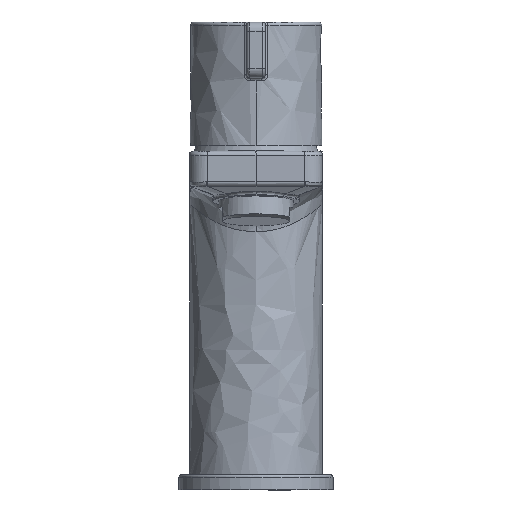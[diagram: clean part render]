
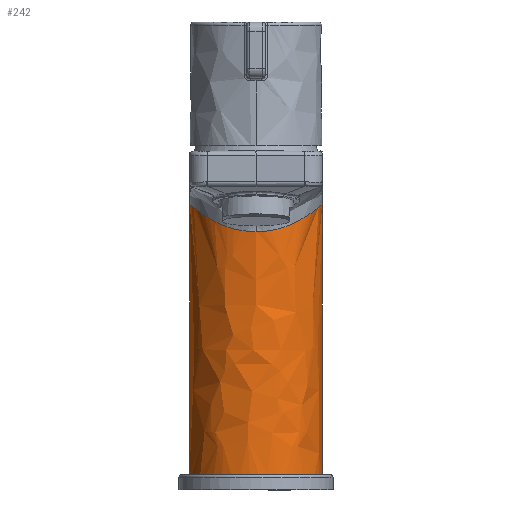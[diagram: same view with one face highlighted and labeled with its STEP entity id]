
A CAD part, front view. The second image highlights one B-rep face of the part: STEP entity #242.
In plain terms, the highlighted free-form (B-spline) face has degree [2, 1] with [9, 2] control points.
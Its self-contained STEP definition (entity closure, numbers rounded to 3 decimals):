
#242=ADVANCED_FACE('',(#479),#3732,.T.);
#479=FACE_OUTER_BOUND('',#738,.T.);
#738=EDGE_LOOP('',(#1705,#1706,#1707,#1708,#1709));
#1705=ORIENTED_EDGE('',*,*,#2399,.T.);
#1706=ORIENTED_EDGE('',*,*,#2394,.F.);
#1707=ORIENTED_EDGE('',*,*,#2431,.T.);
#1708=ORIENTED_EDGE('',*,*,#2401,.T.);
#1709=ORIENTED_EDGE('',*,*,#2395,.F.);
#2394=EDGE_CURVE('',#3420,#3435,#2996,.T.);
#2395=EDGE_CURVE('',#3436,#3434,#2997,.T.);
#2399=EDGE_CURVE('',#3436,#3435,#2628,.T.);
#2401=EDGE_CURVE('',#3439,#3434,#3000,.T.);
#2431=EDGE_CURVE('',#3420,#3439,#3030,.T.);
#2628=(
BOUNDED_CURVE()
B_SPLINE_CURVE(2,(#11496,#11497,#11498,#11499,#11500),.UNSPECIFIED.,.F.,
 .F.)
B_SPLINE_CURVE_WITH_KNOTS((3,2,3),(-67.544,-33.772,
0.),.UNSPECIFIED.)
CURVE()
GEOMETRIC_REPRESENTATION_ITEM()
RATIONAL_B_SPLINE_CURVE((1.,0.707,1.,0.707,1.))
REPRESENTATION_ITEM('')
);
#2996=B_SPLINE_CURVE_WITH_KNOTS('',3,(#11472,#11473,#11474,#11475),
 .UNSPECIFIED.,.F.,.F.,(4,4),(0.,87.577),.UNSPECIFIED.);
#2997=B_SPLINE_CURVE_WITH_KNOTS('',1,(#11476,#11477),.UNSPECIFIED.,.F.,
 .F.,(2,2),(-87.572,0.),.UNSPECIFIED.);
#3000=B_SPLINE_CURVE_WITH_KNOTS('',3,(#11509,#11510,#11511,#11512,#11513,
#11514,#11515,#11516,#11517,#11518),.UNSPECIFIED.,.F.,.F.,(4,2,2,2,4),(0.,
0.25,0.5,0.749,1.),
 .UNSPECIFIED.);
#3030=B_SPLINE_CURVE_WITH_KNOTS('',3,(#11691,#11692,#11693,#11694,#11695,
#11696,#11697,#11698,#11699,#11700,#11701,#11702),.UNSPECIFIED.,.F.,.F.,
(4,2,2,2,2,4),(0.,0.125,0.25,0.5,
0.75,1.),.UNSPECIFIED.);
#3420=VERTEX_POINT('',#11190);
#3434=VERTEX_POINT('',#11204);
#3435=VERTEX_POINT('',#11205);
#3436=VERTEX_POINT('',#11206);
#3439=VERTEX_POINT('',#11209);
#3732=(
BOUNDED_SURFACE()
B_SPLINE_SURFACE(2,1,((#8394,#8395),(#8396,#8397),(#8398,#8399),(#8400,
#8401),(#8402,#8403),(#8404,#8405),(#8406,#8407),(#8408,#8409),(#8410,#8411)),
 .UNSPECIFIED.,.T.,.F.,.F.)
B_SPLINE_SURFACE_WITH_KNOTS((3,2,2,2,3),(2,2),(0.,33.772,67.544,
101.316,135.088),(0.,105.332),.UNSPECIFIED.)
GEOMETRIC_REPRESENTATION_ITEM()
RATIONAL_B_SPLINE_SURFACE(((1.,1.),(0.707,0.707),
(1.,1.),(0.707,0.707),(1.,1.),(0.707,
0.707),(1.,1.),(0.707,0.707),(1.,1.)))
REPRESENTATION_ITEM('')
SURFACE()
);
#8394=CARTESIAN_POINT('',(0.,21.974,101.692));
#8395=CARTESIAN_POINT('',(0.,21.974,-3.64));
#8396=CARTESIAN_POINT('',(21.5,21.974,101.692));
#8397=CARTESIAN_POINT('',(21.5,21.974,-3.64));
#8398=CARTESIAN_POINT('',(21.5,0.474,101.692));
#8399=CARTESIAN_POINT('',(21.5,0.474,-3.64));
#8400=CARTESIAN_POINT('',(21.5,-21.026,101.692));
#8401=CARTESIAN_POINT('',(21.5,-21.026,-3.64));
#8402=CARTESIAN_POINT('',(0.,-21.026,101.692));
#8403=CARTESIAN_POINT('',(0.,-21.026,-3.64));
#8404=CARTESIAN_POINT('',(-21.5,-21.026,101.692));
#8405=CARTESIAN_POINT('',(-21.5,-21.026,-3.64));
#8406=CARTESIAN_POINT('',(-21.5,0.474,101.692));
#8407=CARTESIAN_POINT('',(-21.5,0.474,-3.64));
#8408=CARTESIAN_POINT('',(-21.5,21.974,101.692));
#8409=CARTESIAN_POINT('',(-21.5,21.974,-3.64));
#8410=CARTESIAN_POINT('',(0.,21.974,101.692));
#8411=CARTESIAN_POINT('',(0.,21.974,-3.64));
#11190=CARTESIAN_POINT('',(21.5,0.467,92.814));
#11204=CARTESIAN_POINT('',(-21.5,0.474,92.809));
#11205=CARTESIAN_POINT('',(21.5,0.474,5.237));
#11206=CARTESIAN_POINT('',(-21.5,0.474,5.237));
#11209=CARTESIAN_POINT('',(0.,-21.025,83.739));
#11472=CARTESIAN_POINT('',(21.5,0.467,92.814));
#11473=CARTESIAN_POINT('',(21.5,0.469,63.622));
#11474=CARTESIAN_POINT('',(21.5,0.472,34.43));
#11475=CARTESIAN_POINT('',(21.5,0.474,5.237));
#11476=CARTESIAN_POINT('',(-21.5,0.474,5.237));
#11477=CARTESIAN_POINT('',(-21.5,0.474,92.809));
#11496=CARTESIAN_POINT('',(-21.5,0.474,5.237));
#11497=CARTESIAN_POINT('',(-21.5,-21.026,5.237));
#11498=CARTESIAN_POINT('',(0.,-21.026,5.237));
#11499=CARTESIAN_POINT('',(21.5,-21.026,5.237));
#11500=CARTESIAN_POINT('',(21.5,0.474,5.237));
#11509=CARTESIAN_POINT('',(0.,-21.025,83.739));
#11510=CARTESIAN_POINT('',(-2.962,-21.025,83.737));
#11511=CARTESIAN_POINT('',(-5.844,-20.408,84.233));
#11512=CARTESIAN_POINT('',(-11.037,-18.19,85.855));
#11513=CARTESIAN_POINT('',(-13.325,-16.614,86.967));
#11514=CARTESIAN_POINT('',(-17.145,-12.777,89.242));
#11515=CARTESIAN_POINT('',(-18.694,-10.505,90.42));
#11516=CARTESIAN_POINT('',(-20.884,-5.355,92.216));
#11517=CARTESIAN_POINT('',(-21.5,-2.497,92.809));
#11518=CARTESIAN_POINT('',(-21.5,0.474,92.809));
#11691=CARTESIAN_POINT('',(21.5,0.467,92.814));
#11692=CARTESIAN_POINT('',(21.5,-0.972,92.8));
#11693=CARTESIAN_POINT('',(21.353,-2.405,92.664));
#11694=CARTESIAN_POINT('',(20.786,-5.196,92.158));
#11695=CARTESIAN_POINT('',(20.367,-6.557,91.794));
#11696=CARTESIAN_POINT('',(18.731,-10.449,90.448));
#11697=CARTESIAN_POINT('',(17.167,-12.764,89.252));
#11698=CARTESIAN_POINT('',(13.25,-16.683,86.925));
#11699=CARTESIAN_POINT('',(10.92,-18.261,85.805));
#11700=CARTESIAN_POINT('',(5.717,-20.443,84.206));
#11701=CARTESIAN_POINT('',(2.864,-21.027,83.731));
#11702=CARTESIAN_POINT('',(0.,-21.025,83.739));
